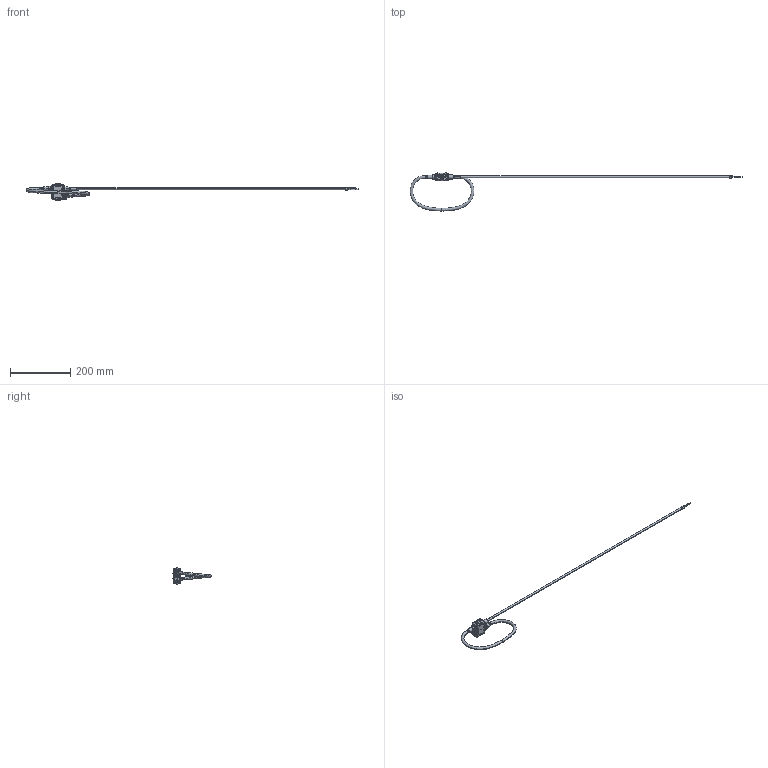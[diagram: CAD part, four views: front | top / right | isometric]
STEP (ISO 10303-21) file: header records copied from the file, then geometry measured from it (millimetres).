
FILE_DESCRIPTION((''),'2;1');
FILE_NAME('ARU_B100_D125_SP2','2022-05-18T11:20:33',(''),('PTC'),'CREO PARAMETRIC BY PTC INC, 18.00','CREO PARAMETRIC BY PTC INC, 18.00','');
FILE_SCHEMA(('CONFIG_CONTROL_DESIGN'));
Products named in the file (1): ARU_B100_D125_SP2
Bounding box: 1100.97 x 126.53 x 57.4 mm (x, y, z)
Surface area: 46450 mm2 (no closed solid volume)
Topology: 0 solids, 7 shells, 759 faces, 2295 edges, 1443 vertices
Faces by surface type: cylinder 228, plane 212, bspline 154, sphere 99, torus 30, cone 26, extrusion 10
Entity records: 44419 total; most frequent: CARTESIAN_POINT 26649, ORIENTED_EDGE 4314, DIRECTION 2774, EDGE_CURVE 2190, VERTEX_POINT 1435, B_SPLINE_CURVE_WITH_KNOTS 1086, AXIS2_PLACEMENT_3D 1055, EDGE_LOOP 794
